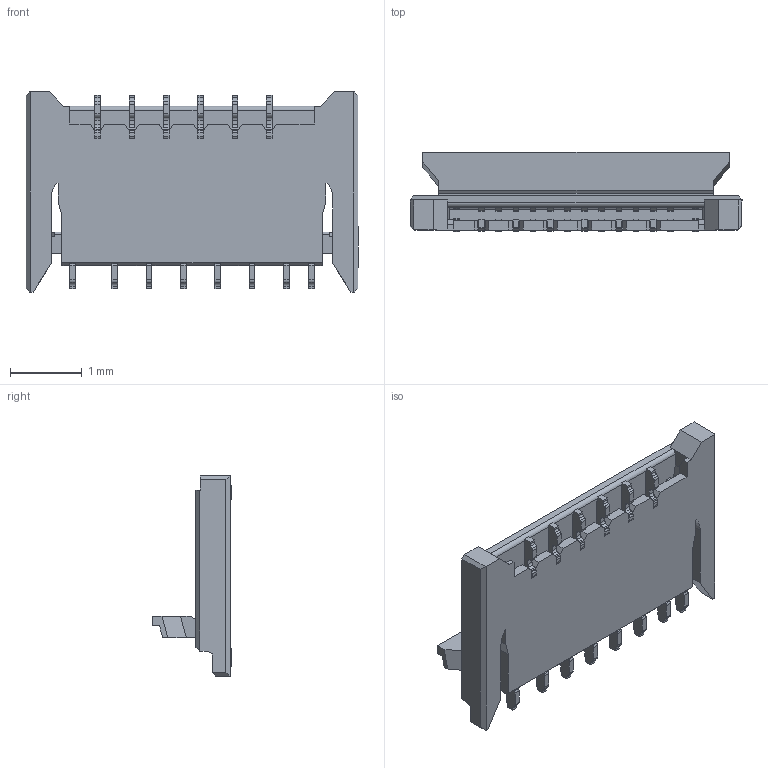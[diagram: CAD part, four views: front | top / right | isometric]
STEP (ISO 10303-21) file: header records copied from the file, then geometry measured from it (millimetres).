
FILE_DESCRIPTION (( 'STEP AP203' ), '1' );
FILE_NAME ('FF53-12A-R11A-B-3H_Open.STEP', '2019-03-28T02:44:43', ( '' ), ( '' ), 'SwSTEP 2.0', 'SolidWorks 2018', '' );
FILE_SCHEMA (( 'CONFIG_CONTROL_DESIGN' ));
Length unit declared in the file: inch
Products named in the file (1): FF53-12A-R11A-B-3H_Open
Bounding box: 4.64 x 1.11 x 2.8 mm (x, y, z)
Volume: 4.5 mm3; surface area: 47.3 mm2
Topology: 1 solids, 1 shells, 657 faces, 1869 edges, 1232 vertices
Faces by surface type: plane 514, cylinder 143
Entity records: 21222 total; most frequent: CARTESIAN_POINT 3780, ORIENTED_EDGE 3738, DIRECTION 3459, EDGE_CURVE 1869, VECTOR 1581, LINE 1581, VERTEX_POINT 1232, AXIS2_PLACEMENT_3D 939
